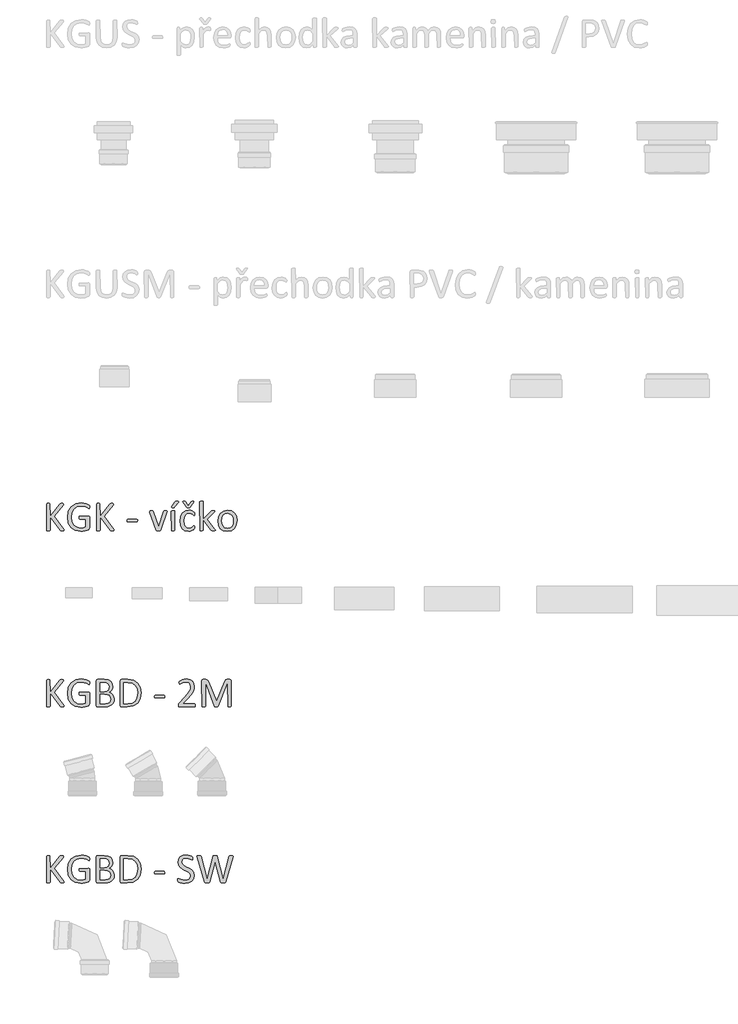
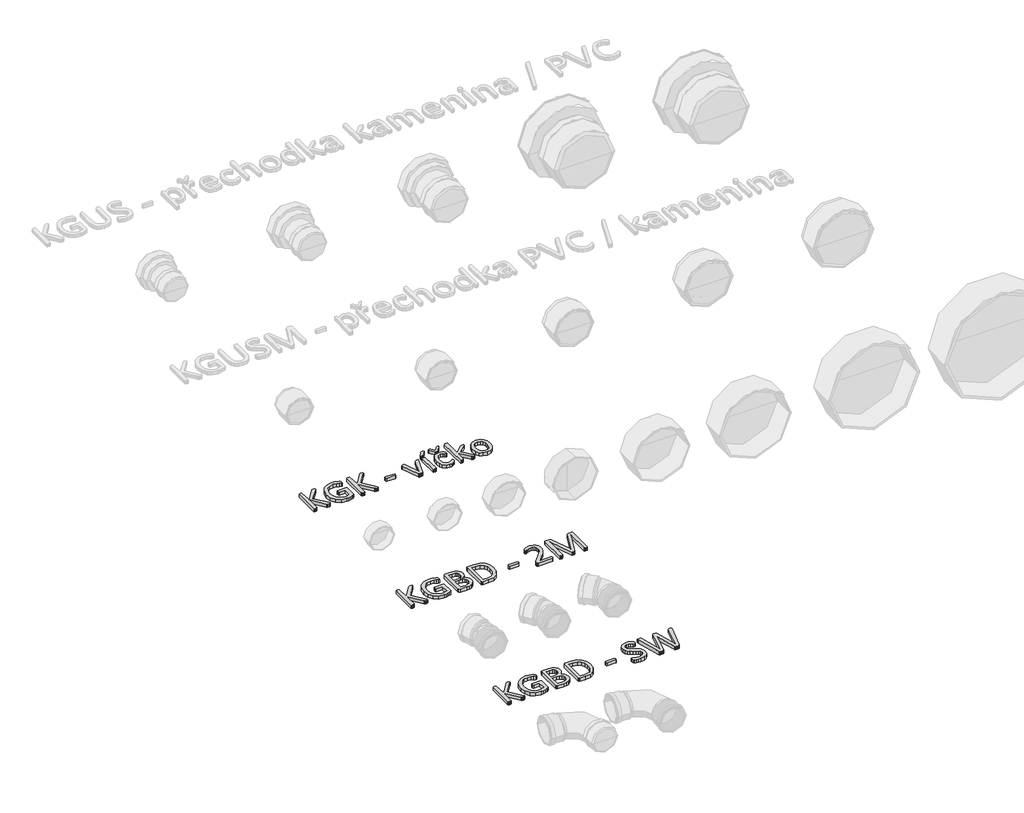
# One storey, part 2 of 11: 3 proxies.
"""IFC4 building model written with IfcOpenShell, lengths in millimetres."""

from ifc_helpers import new_model, si_unit, origin, origin_with_axes, place, context, project, spatial, polyline, outline, extrude, element, save

model = new_model("IFC4")

# Units and contexts
model_context = context("Model", 3, world=origin())
ifc_project = project(units=[si_unit("LENGTHUNIT", "METRE", prefix="MILLI")], contexts=[model_context])

# Site, building, storey
site = spatial("IfcSite", under=ifc_project)
building = spatial("IfcBuilding", under=site)
storey = spatial("IfcBuildingStorey", under=building, Name="Podlaží 1", Elevation=0.0)

# Proxies
placement = place(None, origin())
element("IfcBuildingElementProxy", 1, Name="120mm Arial", ObjectType="120mm Arial", at=placement, inside=storey, context=model_context, shape_type="SweptSolid", body=[
    extrude(outline(polyline([(-20477.3940185, 2317.4794852), (-20478.8234835, 2314.4577047), (-20481.3386182, 2313.8605864), (-20485.4098794, 2313.625358), (-20490.6934717, 2313.8967754), (-20493.7514412, 2314.910067), (-20495.4342292, 2316.592855), (-20539.5486061, 2376.232308), (-20539.5486061, 2316.592855), (-20541.2494886, 2314.4215157), (-20543.7465288, 2313.8605864), (-20547.6549395, 2313.625358), (-20551.5271613, 2313.8605864), (-20554.0603905, 2314.4215157), (-20555.3812885, 2315.3443349), (-20555.3812885, 2431.0948144), (-20551.5271613, 2433.8270831), (-20547.6549395, 2434.0623115), (-20543.7465288, 2433.8270831), (-20541.2494886, 2433.2661537), (-20539.5486061, 2378.0779464), (-20497.0989227, 2431.0948144), (-20495.7780246, 2432.4880905), (-20493.9866697, 2433.3747207), (-20491.399157, 2433.8813665), (-20487.4364628, 2434.0623115), (-20483.564241, 2433.8270831), (-20481.1938622, 2433.2299647), (-20480.2529486, 2428.7063412), (-20482.5509493, 2425.3769543), (-20522.3226476, 2378.0779464), (-20479.4748853, 2321.4783685), (-20477.3940185, 2317.4794852)])), origin_with_axes(), (0.0, 0.0, 1.0), 15.0),
    extrude(outline(polyline([(-20365.8414616, 2418.2839125), (-20366.0224065, 2415.0088091), (-20366.5833359, 2412.6384303), (-20367.5242496, 2411.2994378), (-20372.4278575, 2412.7108083), (-20379.4123323, 2416.691597), (-20389.8709499, 2420.6723858), (-20404.3103563, 2422.4818352), (-20422.1696221, 2418.8086529), (-20435.5595478, 2408.6395471), (-20443.9734876, 2393.2049435), (-20446.9047957, 2373.8076457), (-20443.7020702, 2353.0713554), (-20434.8176736, 2337.8176967), (-20421.2648974, 2328.4085597), (-20404.0208444, 2325.2058343), (-20392.693691, 2326.5267323), (-20382.0541284, 2330.4532376), (-20382.0541284, 2364.5794537), (-20409.0873028, 2364.5794537), (-20411.403398, 2366.2622416), (-20412.1633668, 2371.4915505), (-20411.9824219, 2374.6761815), (-20411.3853036, 2376.8475208), (-20371.4145658, 2378.4760252), (-20369.406077, 2378.1141354), (-20367.578533, 2377.0103712), (-20366.293824, 2374.9656934), (-20365.8414616, 2371.9981963), (-20365.8414616, 2326.4000709), (-20366.6738083, 2322.2202427), (-20370.2022347, 2319.1260842), (-20377.1505205, 2316.2128706), (-20385.9444447, 2313.5348855), (-20395.1183533, 2311.870192), (-20404.2741673, 2311.3092627), (-20429.1179079, 2315.6881303), (-20447.610481, 2328.1552368), (-20459.1366738, 2347.5163456), (-20463.1174625, 2372.7219761), (-20458.8290674, 2398.9589927), (-20446.7238508, 2418.9895978), (-20427.9598603, 2431.8185942), (-20403.7313325, 2436.3784067), (-20390.8842416, 2435.2022646), (-20380.20849, 2432.4519015), (-20372.3554795, 2429.0139476), (-20367.9766119, 2425.9740726), (-20366.3119185, 2423.1151425), (-20365.8414616, 2418.2839125)])), origin_with_axes(), (0.0, 0.0, 1.0), 15.0),
    extrude(outline(polyline([(-20257.3649688, 2317.4794852), (-20258.7944338, 2314.4577047), (-20261.3095685, 2313.8605864), (-20265.3808297, 2313.625358), (-20270.664422, 2313.8967754), (-20273.7223915, 2314.910067), (-20275.4051795, 2316.592855), (-20319.5195564, 2376.232308), (-20319.5195564, 2316.592855), (-20321.2204389, 2314.4215157), (-20323.7174791, 2313.8605864), (-20327.6258898, 2313.625358), (-20331.4981116, 2313.8605864), (-20334.0313408, 2314.4215157), (-20335.3522388, 2315.3443349), (-20335.3522388, 2431.0948144), (-20331.4981116, 2433.8270831), (-20327.6258898, 2434.0623115), (-20323.7174791, 2433.8270831), (-20321.2204389, 2433.2661537), (-20319.5195564, 2378.0779464), (-20277.069873, 2431.0948144), (-20275.7489749, 2432.4880905), (-20273.95762, 2433.3747207), (-20271.3701073, 2433.8813665), (-20267.4074131, 2434.0623115), (-20263.5351913, 2433.8270831), (-20261.1648125, 2433.2299647), (-20260.2238988, 2428.7063412), (-20262.5218996, 2425.3769543), (-20302.2935979, 2378.0779464), (-20259.4458356, 2321.4783685), (-20257.3649688, 2317.4794852)])), origin_with_axes(), (0.0, 0.0, 1.0), 15.0),
    extrude(outline(polyline([(-20155.0767929, 2358.8254045), (-20155.9272342, 2354.265592), (-20158.4061799, 2352.9989774), (-20197.9969332, 2352.9989774), (-20200.5482569, 2354.301781), (-20201.3986981, 2358.8254045), (-20200.5482569, 2363.3128391), (-20197.9969332, 2364.5794537), (-20158.4061799, 2364.5794537), (-20155.3120214, 2361.5395787), (-20155.0767929, 2358.8254045)])), origin_with_axes(), (0.0, 0.0, 1.0), 15.0),
    extrude(outline(polyline([(-20024.0274186, 2400.0446623), (-20052.5171997, 2316.9185559), (-20053.4943024, 2315.2719569), (-20055.3037518, 2314.2767598), (-20058.3617213, 2313.7701139), (-20063.0120064, 2313.625358), (-20067.6261024, 2313.8063029), (-20070.6478829, 2314.3491377), (-20072.4573323, 2315.3624294), (-20073.470624, 2316.9185559), (-20101.842791, 2395.1591489), (-20102.4399093, 2397.0590708), (-20098.8391049, 2401.5465054), (-20095.2563951, 2401.6369778), (-20090.9499054, 2401.4922219), (-20088.4528652, 2400.985576), (-20086.3539039, 2398.7056698), (-20062.7948724, 2330.8151275), (-20038.8739511, 2398.7056698), (-20036.9016512, 2400.985576), (-20034.476989, 2401.4922219), (-20030.4419168, 2401.6369778), (-20026.9134904, 2401.5465054), (-20024.0274186, 2400.0446623)])), origin_with_axes(), (0.0, 0.0, 1.0), 15.0),
    extrude(outline(polyline([(-19990.6340295, 2316.4480991), (-19994.7595742, 2313.8063029), (-19998.7765519, 2313.625358), (-20002.7211516, 2313.8063029), (-20005.2181918, 2314.3491377), (-20006.8466963, 2398.8142367), (-20002.7211516, 2401.4922219), (-19998.7765519, 2401.6369778), (-19994.7595742, 2401.4922219), (-19992.3168174, 2400.9493871), (-19990.6340295, 2316.4480991)])), origin_with_axes(), (0.0, 0.0, 1.0), 15.0),
    extrude(outline(polyline([(-19990.6702185, 2440.0334946), (-19989.3312259, 2441.6258101), (-19987.467493, 2442.6029128), (-19984.7352244, 2443.1457476), (-19980.8268136, 2443.3266925), (-19976.484135, 2443.0190861), (-19974.1680397, 2442.1324559), (-19974.4213627, 2439.2011478), (-19991.7196991, 2418.3924795), (-19993.1129752, 2416.9630144), (-19994.5424402, 2416.1125732), (-19996.6414016, 2415.6602109), (-19999.8622215, 2415.5335494), (-20003.1916085, 2415.8049668), (-20004.9286799, 2416.5287466), (-20004.530601, 2419.3695822), (-19990.6702185, 2440.0334946)])), origin_with_axes(), (0.0, 0.0, 1.0), 15.0),
    extrude(outline(polyline([(-19919.9931241, 2440.6487074), (-19918.8350764, 2441.9334165), (-19915.5418785, 2443.2000311), (-19912.6467594, 2443.3266925), (-19908.8650101, 2443.0190861), (-19907.0555607, 2442.1324559), (-19908.4126478, 2438.3326121), (-19923.3587, 2417.8496447), (-19924.5348421, 2416.691597), (-19926.1271576, 2416.0221007), (-19928.4432529, 2415.6602109), (-19931.7907343, 2415.5335494), (-19934.9391763, 2415.6602109), (-19937.1647991, 2416.0582897), (-19938.7028311, 2416.7820695), (-19954.734553, 2438.3326121), (-19956.127829, 2440.5582349), (-19954.2279071, 2443.0190861), (-19950.4642523, 2443.3266925), (-19947.3519993, 2443.2000311), (-19945.4701719, 2442.7476687), (-19943.1540767, 2440.6487074), (-19931.5736004, 2424.4722295), (-19919.9931241, 2440.6487074)])), origin_with_axes(), (0.0, 0.0, 1.0), 15.0),
    extrude(outline(polyline([(-19902.6224096, 2330.2722926), (-19902.7128821, 2327.7390635), (-19903.038583, 2325.929614), (-19905.0289773, 2322.2926207), (-19908.9192936, 2318.7641943), (-19915.0895161, 2315.018634), (-19922.5263532, 2312.3406489), (-19930.8498206, 2311.3092627), (-19946.5558416, 2314.3129487), (-19958.0096564, 2323.0887784), (-19965.0484147, 2337.2386729), (-19967.4730769, 2356.5816872), (-19964.5055798, 2378.0236629), (-19956.3811519, 2392.6982977), (-19944.2397463, 2401.1846155), (-19929.1127491, 2403.9530731), (-19921.4768726, 2403.1388209), (-19914.6733428, 2401.0036705), (-19909.1364275, 2397.9637955), (-19905.6260956, 2395.014393), (-19904.1242526, 2393.0782821), (-19903.4366618, 2391.5402501), (-19903.074772, 2389.6403282), (-19902.9842995, 2386.9804375), (-19903.7985517, 2382.1673021), (-19905.7708516, 2380.7921205), (-19908.9011991, 2382.23968), (-19913.3705392, 2385.424311), (-19919.9388406, 2388.608942), (-19929.0041822, 2390.0565015), (-19938.5264098, 2387.9575402), (-19945.5244554, 2381.6606562), (-19949.8264214, 2371.364889), (-19951.2604101, 2357.269278), (-19949.7766615, 2343.2641395), (-19945.3977939, 2333.2036007), (-19938.2866577, 2327.1781341), (-19928.6422923, 2325.2058343), (-19919.6131397, 2327.0333782), (-19912.8819878, 2331.0503559), (-19908.0869469, 2335.0130501), (-19905.0470718, 2336.7863106), (-19902.7490711, 2333.2216952), (-19902.6224096, 2330.2722926)])), origin_with_axes(), (0.0, 0.0, 1.0), 15.0),
    extrude(outline(polyline([(-19812.2946945, 2316.556666), (-19816.3659557, 2313.8063029), (-19820.3648389, 2313.625358), (-19824.4903836, 2313.7701139), (-19827.2407467, 2314.2224763), (-19829.0501961, 2315.127201), (-19830.3168107, 2316.556666), (-19865.5648854, 2362.1186025), (-19865.5648854, 2316.4480991), (-19869.6904301, 2313.8063029), (-19873.7074078, 2313.625358), (-19877.6520076, 2313.8063029), (-19880.1490478, 2314.3672322), (-19881.7775523, 2440.3591955), (-19877.6520076, 2443.1457476), (-19873.7074078, 2443.3266925), (-19869.6904301, 2443.1457476), (-19867.2476734, 2442.5848183), (-19865.9629643, 2441.6439046), (-19865.5648854, 2364.2175638), (-19833.3566857, 2398.4523469), (-19831.7462757, 2399.9541899), (-19829.7196924, 2400.9493871), (-19826.9331403, 2401.4922219), (-19823.042824, 2401.6369778), (-19819.0620353, 2401.4922219), (-19816.4745226, 2401.0398595), (-19815.0450576, 2400.2256073), (-19815.244097, 2396.6971809), (-19817.3611528, 2394.1458572), (-19849.3522186, 2364.3261308), (-19814.5746007, 2320.8631556), (-19812.8194348, 2318.348021), (-19812.2946945, 2316.556666)])), origin_with_axes(), (0.0, 0.0, 1.0), 15.0),
    extrude(outline(polyline([(-19717.3347888, 2358.5358926), (-19720.0127739, 2339.5547682), (-19728.0286349, 2324.608716), (-19741.3823716, 2314.8195946), (-19759.9654172, 2311.3092627), (-19777.8789665, 2314.4034212), (-19790.6174904, 2323.3963848), (-19798.217178, 2337.7272243), (-19800.7142182, 2356.8350102), (-19798.072422, 2375.8161346), (-19790.1108445, 2390.7440923), (-19776.8113913, 2400.4789302), (-19758.1921567, 2403.9530731), (-19740.260513, 2400.8589146), (-19727.521989, 2391.865951), (-19719.8861125, 2377.5351115), (-19717.3347888, 2358.5358926)]), holes=[polyline([(-19733.5474556, 2357.450223), (-19734.7959757, 2370.0258964), (-19738.9034259, 2380.4121361), (-19746.6297749, 2387.4689889), (-19758.8073696, 2390.0565015), (-19770.3697514, 2387.6861228), (-19778.3313288, 2380.9911599), (-19782.9816138, 2370.7496762), (-19784.5015513, 2357.8121128), (-19783.2530312, 2345.1640614), (-19779.1093921, 2334.8140107), (-19771.3287596, 2327.7933469), (-19759.1692594, 2325.2058343), (-19747.6430666, 2327.576213), (-19739.6272057, 2334.2168924), (-19735.0131097, 2344.4221871), (-19733.5474556, 2357.450223)])]), origin_with_axes(), (0.0, 0.0, 1.0), 15.0),
])
element("IfcBuildingElementProxy", 2, Name="120mm Arial", ObjectType="120mm Arial", at=placement, inside=storey, context=model_context, shape_type="SweptSolid", body=[
    extrude(outline(polyline([(-20477.3940185, 1543.1939722), (-20478.8234835, 1540.1721917), (-20481.3386182, 1539.5750734), (-20485.4098794, 1539.339845), (-20490.6934717, 1539.6112624), (-20493.7514412, 1540.6245541), (-20495.4342292, 1542.307342), (-20539.5486061, 1601.946795), (-20539.5486061, 1542.307342), (-20541.2494886, 1540.1360027), (-20543.7465288, 1539.5750734), (-20547.6549395, 1539.339845), (-20551.5271613, 1539.5750734), (-20554.0603905, 1540.1360027), (-20555.3812885, 1541.0588219), (-20555.3812885, 1656.8093014), (-20551.5271613, 1659.5415701), (-20547.6549395, 1659.7767985), (-20543.7465288, 1659.5415701), (-20541.2494886, 1658.9806407), (-20539.5486061, 1603.7924334), (-20497.0989227, 1656.8093014), (-20495.7780246, 1658.2025775), (-20493.9866697, 1659.0892077), (-20491.399157, 1659.5958535), (-20487.4364628, 1659.7767985), (-20483.564241, 1659.5415701), (-20481.1938622, 1658.9444518), (-20480.2529486, 1654.4208282), (-20482.5509493, 1651.0914413), (-20522.3226476, 1603.7924334), (-20479.4748853, 1547.1928555), (-20477.3940185, 1543.1939722)])), origin_with_axes(), (0.0, 0.0, 1.0), 15.0),
    extrude(outline(polyline([(-20365.8414616, 1643.9983995), (-20366.0224065, 1640.7232961), (-20366.5833359, 1638.3529173), (-20367.5242496, 1637.0139248), (-20372.4278575, 1638.4252953), (-20379.4123323, 1642.406084), (-20389.8709499, 1646.3868728), (-20404.3103563, 1648.1963222), (-20422.1696221, 1644.5231399), (-20435.5595478, 1634.3540341), (-20443.9734876, 1618.9194305), (-20446.9047957, 1599.5221327), (-20443.7020702, 1578.7858424), (-20434.8176736, 1563.5321837), (-20421.2648974, 1554.1230467), (-20404.0208444, 1550.9203213), (-20392.693691, 1552.2412193), (-20382.0541284, 1556.1677246), (-20382.0541284, 1590.2939407), (-20409.0873028, 1590.2939407), (-20411.403398, 1591.9767286), (-20412.1633668, 1597.2060375), (-20411.9824219, 1600.3906685), (-20411.3853036, 1602.5620078), (-20371.4145658, 1604.1905122), (-20369.406077, 1603.8286224), (-20367.578533, 1602.7248582), (-20366.293824, 1600.6801804), (-20365.8414616, 1597.7126833), (-20365.8414616, 1552.1145579), (-20366.6738083, 1547.9347297), (-20370.2022347, 1544.8405712), (-20377.1505205, 1541.9273576), (-20385.9444447, 1539.2493725), (-20395.1183533, 1537.584679), (-20404.2741673, 1537.0237497), (-20429.1179079, 1541.4026173), (-20447.610481, 1553.8697238), (-20459.1366738, 1573.2308326), (-20463.1174625, 1598.4364631), (-20458.8290674, 1624.6734797), (-20446.7238508, 1644.7040848), (-20427.9598603, 1657.5330812), (-20403.7313325, 1662.0928937), (-20390.8842416, 1660.9167516), (-20380.20849, 1658.1663885), (-20372.3554795, 1654.7284346), (-20367.9766119, 1651.6885596), (-20366.3119185, 1648.8296295), (-20365.8414616, 1643.9983995)])), origin_with_axes(), (0.0, 0.0, 1.0), 15.0),
    extrude(outline(polyline([(-20256.9849844, 1573.3936831), (-20258.4144494, 1563.0798214), (-20262.4314271, 1554.5754091), (-20268.6559332, 1547.9709187), (-20276.8708335, 1543.1939722), (-20286.6599549, 1540.2988532), (-20298.6023211, 1539.339845), (-20329.8334181, 1539.339845), (-20333.8323013, 1540.7874045), (-20335.7322232, 1545.8538629), (-20335.7322232, 1653.2627806), (-20333.8142068, 1658.329239), (-20329.7610401, 1659.7767985), (-20302.4021649, 1659.7767985), (-20284.687655, 1657.6959317), (-20273.1976512, 1651.6523706), (-20266.2674599, 1641.9175327), (-20263.9332702, 1628.8714024), (-20264.9646563, 1620.5660295), (-20267.9864369, 1613.2377594), (-20273.0167063, 1607.2303873), (-20279.964992, 1602.8877087), (-20270.9901229, 1599.5402272), (-20263.7161362, 1593.3338157), (-20258.7944338, 1584.521797), (-20256.9849844, 1573.3936831)]), holes=[polyline([(-20280.145937, 1626.7000631), (-20281.3582681, 1634.6978295), (-20285.1581119, 1640.7594851), (-20291.9254527, 1644.5593288), (-20302.9811887, 1645.8802269), (-20319.5195564, 1645.8802269), (-20319.5195564, 1606.5066075), (-20301.3164952, 1606.5066075), (-20291.2921454, 1608.1532065), (-20284.9771669, 1612.5682631), (-20281.3039846, 1619.046092), (-20280.145937, 1626.7000631)]), polyline([(-20273.1976512, 1573.2489271), (-20274.8985337, 1582.5856862), (-20279.8745196, 1589.353027), (-20288.0894199, 1593.5147607), (-20300.5203375, 1594.9261312), (-20319.5195564, 1594.9261312), (-20319.5195564, 1553.2364165), (-20296.4671708, 1553.2364165), (-20286.9494668, 1554.5211256), (-20279.8021416, 1558.3209694), (-20274.9528171, 1564.5816644), (-20273.1976512, 1573.2489271)])]), origin_with_axes(), (0.0, 0.0, 1.0), 15.0),
    extrude(outline(polyline([(-20138.8641261, 1601.3315822), (-20142.8630093, 1574.0088959), (-20154.5520526, 1554.6477871), (-20173.4065156, 1543.1577832), (-20200.0235166, 1539.339845), (-20225.5367534, 1539.339845), (-20229.6080146, 1540.7874045), (-20231.5079365, 1545.8538629), (-20231.5079365, 1653.2627806), (-20229.6080146, 1658.329239), (-20225.5367534, 1659.7767985), (-20198.2502561, 1659.7767985), (-20171.8142001, 1655.7236318), (-20153.7016114, 1644.088872), (-20142.6277809, 1625.7048659), (-20138.8641261, 1601.3315822)]), holes=[polyline([(-20155.0767929, 1600.6078024), (-20157.5195497, 1618.5937296), (-20165.1554262, 1632.996947), (-20178.328218, 1642.478462), (-20198.865469, 1645.8802269), (-20215.2952697, 1645.8802269), (-20215.2952697, 1553.2364165), (-20198.684524, 1553.2364165), (-20179.0881868, 1556.0953466), (-20165.770639, 1564.8349873), (-20157.7547781, 1579.6000946), (-20155.0767929, 1600.6078024)])]), origin_with_axes(), (0.0, 0.0, 1.0), 15.0),
    extrude(outline(polyline([(-20034.6398394, 1584.5398915), (-20035.4902807, 1579.980079), (-20037.9692264, 1578.7134644), (-20077.5599797, 1578.7134644), (-20080.1113034, 1580.016268), (-20080.9617446, 1584.5398915), (-20080.1113034, 1589.0273261), (-20077.5599797, 1590.2939407), (-20037.9692264, 1590.2939407), (-20034.8750678, 1587.2540657), (-20034.6398394, 1584.5398915)])), origin_with_axes(), (0.0, 0.0, 1.0), 15.0),
    extrude(outline(polyline([(-19900.3063143, 1546.3966977), (-19900.5415428, 1543.3387282), (-19901.1748501, 1541.1131054), (-19902.2605197, 1539.7741128), (-19969.2101483, 1539.339845), (-19971.4357711, 1539.6655459), (-19973.0823701, 1540.7512155), (-19974.0956618, 1542.9406493), (-19974.4213627, 1546.4328867), (-19974.2766067, 1549.7622736), (-19973.6613939, 1552.2774083), (-19972.4671573, 1554.4668421), (-19970.5853299, 1556.7829374), (-19946.6282195, 1581.9704733), (-19933.3287663, 1597.224132), (-19925.5843228, 1609.5102935), (-19922.0016129, 1619.5708323), (-19921.1511717, 1628.0752446), (-19922.4901643, 1635.8196881), (-19926.362386, 1642.2251391), (-19932.7135535, 1646.5859122), (-19941.4893832, 1648.1963222), (-19951.9118119, 1646.7306682), (-19960.0362398, 1643.5641317), (-19965.8626669, 1640.3975952), (-19969.3549043, 1638.9319411), (-19971.906228, 1642.587029), (-19972.1052674, 1645.807849), (-19972.0147949, 1648.1058497), (-19971.689094, 1649.8067322), (-19969.6082272, 1652.6837568), (-19965.7721944, 1655.2350804), (-19958.9505701, 1658.4016169), (-19949.8852285, 1661.0253186), (-19939.4989888, 1662.0928937), (-19924.2996137, 1659.613948), (-19913.4791061, 1652.8285127), (-19907.0555607, 1642.8222574), (-19904.9385049, 1630.6808518), (-19905.969891, 1619.2270369), (-19910.3306641, 1606.9046864), (-19919.9569351, 1592.1576736), (-19936.6400587, 1573.4660611), (-19955.8926006, 1553.2364165), (-19903.9252132, 1553.2364165), (-19901.283417, 1551.5174396), (-19900.5415428, 1549.3822893), (-19900.3063143, 1546.3966977)])), origin_with_axes(), (0.0, 0.0, 1.0), 15.0),
    extrude(outline(polyline([(-19742.8118367, 1542.307342), (-19744.5489081, 1540.1360027), (-19747.0278538, 1539.5750734), (-19750.9543591, 1539.339845), (-19754.8084863, 1539.5750734), (-19757.3417155, 1540.1360027), (-19759.0245035, 1646.7125737), (-19800.4247063, 1541.8368852), (-19802.7046125, 1539.9550578), (-19805.0207078, 1539.4846009), (-19808.2053388, 1539.339845), (-19811.5528202, 1539.5207899), (-19813.88701, 1540.0274357), (-19815.3345695, 1540.8235935), (-19856.2281264, 1646.7125737), (-19856.2281264, 1542.307342), (-19858.0375758, 1540.1360027), (-19860.570805, 1539.5750734), (-19864.5515938, 1539.339845), (-19868.4238155, 1539.5750734), (-19870.9027612, 1540.1360027), (-19872.5131712, 1652.5390008), (-19870.4323044, 1658.112105), (-19865.7820194, 1659.7767985), (-19855.9024255, 1659.7767985), (-19850.5826442, 1659.2158692), (-19846.6018555, 1657.4607032), (-19843.7610199, 1654.4027337), (-19841.7525311, 1650.0419606), (-19807.6625039, 1563.2245773), (-19772.5591852, 1649.7886377), (-19770.2792789, 1654.5113007), (-19767.5651048, 1657.6054592), (-19764.2900013, 1659.2701526), (-19760.1101731, 1659.7767985), (-19749.7601224, 1659.7767985), (-19747.0278538, 1659.3606251), (-19744.8565145, 1658.0578215), (-19743.3908605, 1655.8321987), (-19742.8118367, 1652.5390008), (-19742.8118367, 1542.307342)])), origin_with_axes(), (0.0, 0.0, 1.0), 15.0),
])
element("IfcBuildingElementProxy", 3, Name="120mm Arial", ObjectType="120mm Arial", at=placement, inside=storey, context=model_context, shape_type="SweptSolid", body=[
    extrude(outline(polyline([(-20477.3940185, 768.9084592), (-20478.8234835, 765.8866787), (-20481.3386182, 765.2895604), (-20485.4098794, 765.054332), (-20490.6934717, 765.3257494), (-20493.7514412, 766.3390411), (-20495.4342292, 768.021829), (-20539.5486061, 827.661282), (-20539.5486061, 768.021829), (-20541.2494886, 765.8504897), (-20543.7465288, 765.2895604), (-20547.6549395, 765.054332), (-20551.5271613, 765.2895604), (-20554.0603905, 765.8504897), (-20555.3812885, 766.7733089), (-20555.3812885, 882.5237884), (-20551.5271613, 885.2560571), (-20547.6549395, 885.4912855), (-20543.7465288, 885.2560571), (-20541.2494886, 884.6951277), (-20539.5486061, 829.5069204), (-20497.0989227, 882.5237884), (-20495.7780246, 883.9170645), (-20493.9866697, 884.8036947), (-20491.399157, 885.3103406), (-20487.4364628, 885.4912855), (-20483.564241, 885.2560571), (-20481.1938622, 884.6589388), (-20480.2529486, 880.1353152), (-20482.5509493, 876.8059283), (-20522.3226476, 829.5069204), (-20479.4748853, 772.9073425), (-20477.3940185, 768.9084592)])), origin_with_axes(), (0.0, 0.0, 1.0), 15.0),
    extrude(outline(polyline([(-20365.8414616, 869.7128865), (-20366.0224065, 866.4377831), (-20366.5833359, 864.0674043), (-20367.5242496, 862.7284118), (-20372.4278575, 864.1397823), (-20379.4123323, 868.120571), (-20389.8709499, 872.1013598), (-20404.3103563, 873.9108092), (-20422.1696221, 870.2376269), (-20435.5595478, 860.0685211), (-20443.9734876, 844.6339175), (-20446.9047957, 825.2366197), (-20443.7020702, 804.5003294), (-20434.8176736, 789.2466707), (-20421.2648974, 779.8375338), (-20404.0208444, 776.6348083), (-20392.693691, 777.9557064), (-20382.0541284, 781.8822116), (-20382.0541284, 816.0084277), (-20409.0873028, 816.0084277), (-20411.403398, 817.6912157), (-20412.1633668, 822.9205245), (-20411.9824219, 826.1051555), (-20411.3853036, 828.2764948), (-20371.4145658, 829.9049993), (-20369.406077, 829.5431094), (-20367.578533, 828.4393452), (-20366.293824, 826.3946674), (-20365.8414616, 823.4271703), (-20365.8414616, 777.8290449), (-20366.6738083, 773.6492167), (-20370.2022347, 770.5550582), (-20377.1505205, 767.6418446), (-20385.9444447, 764.9638595), (-20395.1183533, 763.299166), (-20404.2741673, 762.7382367), (-20429.1179079, 767.1171043), (-20447.610481, 779.5842108), (-20459.1366738, 798.9453196), (-20463.1174625, 824.1509501), (-20458.8290674, 850.3879667), (-20446.7238508, 870.4185718), (-20427.9598603, 883.2475682), (-20403.7313325, 887.8073808), (-20390.8842416, 886.6312386), (-20380.20849, 883.8808755), (-20372.3554795, 880.4429216), (-20367.9766119, 877.4030466), (-20366.3119185, 874.5441165), (-20365.8414616, 869.7128865)])), origin_with_axes(), (0.0, 0.0, 1.0), 15.0),
    extrude(outline(polyline([(-20256.9849844, 799.1081701), (-20258.4144494, 788.7943084), (-20262.4314271, 780.2898961), (-20268.6559332, 773.6854057), (-20276.8708335, 768.9084592), (-20286.6599549, 766.0133402), (-20298.6023211, 765.054332), (-20329.8334181, 765.054332), (-20333.8323013, 766.5018915), (-20335.7322232, 771.5683499), (-20335.7322232, 878.9772676), (-20333.8142068, 884.043726), (-20329.7610401, 885.4912855), (-20302.4021649, 885.4912855), (-20284.687655, 883.4104187), (-20273.1976512, 877.3668576), (-20266.2674599, 867.6320197), (-20263.9332702, 854.5858894), (-20264.9646563, 846.2805165), (-20267.9864369, 838.9522464), (-20273.0167063, 832.9448743), (-20279.964992, 828.6021957), (-20270.9901229, 825.2547142), (-20263.7161362, 819.0483027), (-20258.7944338, 810.236284), (-20256.9849844, 799.1081701)]), holes=[polyline([(-20280.145937, 852.4145501), (-20281.3582681, 860.4123165), (-20285.1581119, 866.4739721), (-20291.9254527, 870.2738159), (-20302.9811887, 871.5947139), (-20319.5195564, 871.5947139), (-20319.5195564, 832.2210945), (-20301.3164952, 832.2210945), (-20291.2921454, 833.8676935), (-20284.9771669, 838.2827501), (-20281.3039846, 844.760579), (-20280.145937, 852.4145501)]), polyline([(-20273.1976512, 798.9634141), (-20274.8985337, 808.3001732), (-20279.8745196, 815.067514), (-20288.0894199, 819.2292477), (-20300.5203375, 820.6406182), (-20319.5195564, 820.6406182), (-20319.5195564, 778.9509035), (-20296.4671708, 778.9509035), (-20286.9494668, 780.2356126), (-20279.8021416, 784.0354564), (-20274.9528171, 790.2961514), (-20273.1976512, 798.9634141)])]), origin_with_axes(), (0.0, 0.0, 1.0), 15.0),
    extrude(outline(polyline([(-20138.8641261, 827.0460692), (-20142.8630093, 799.7233829), (-20154.5520526, 780.3622741), (-20173.4065156, 768.8722703), (-20200.0235166, 765.054332), (-20225.5367534, 765.054332), (-20229.6080146, 766.5018915), (-20231.5079365, 771.5683499), (-20231.5079365, 878.9772676), (-20229.6080146, 884.043726), (-20225.5367534, 885.4912855), (-20198.2502561, 885.4912855), (-20171.8142001, 881.4381188), (-20153.7016114, 869.803359), (-20142.6277809, 851.4193529), (-20138.8641261, 827.0460692)]), holes=[polyline([(-20155.0767929, 826.3222894), (-20157.5195497, 844.3082167), (-20165.1554262, 858.7114341), (-20178.328218, 868.192949), (-20198.865469, 871.5947139), (-20215.2952697, 871.5947139), (-20215.2952697, 778.9509035), (-20198.684524, 778.9509035), (-20179.0881868, 781.8098336), (-20165.770639, 790.5494743), (-20157.7547781, 805.3145816), (-20155.0767929, 826.3222894)])]), origin_with_axes(), (0.0, 0.0, 1.0), 15.0),
    extrude(outline(polyline([(-20034.6398394, 810.2543785), (-20035.4902807, 805.694566), (-20037.9692264, 804.4279514), (-20077.5599797, 804.4279514), (-20080.1113034, 805.730755), (-20080.9617446, 810.2543785), (-20080.1113034, 814.7418131), (-20077.5599797, 816.0084277), (-20037.9692264, 816.0084277), (-20034.8750678, 812.9685527), (-20034.6398394, 810.2543785)])), origin_with_axes(), (0.0, 0.0, 1.0), 15.0),
    extrude(outline(polyline([(-19904.9385049, 798.6015243), (-19908.0507579, 783.4021491), (-19916.7180206, 772.0930902), (-19929.7641509, 765.090521), (-19945.9044398, 762.7382367), (-19957.1230262, 763.6429614), (-19966.3512182, 765.8685842), (-19973.1547481, 768.6008528), (-19976.9726863, 771.0074206), (-19978.5469073, 773.7939727), (-19979.0535532, 778.5528247), (-19978.8726082, 782.081251), (-19978.3116789, 784.3430628), (-19972.3404958, 784.4516298), (-19966.1702733, 781.3031878), (-19957.1049317, 778.1185568), (-19944.8549591, 776.6348083), (-19935.2105937, 778.0461788), (-19927.7013786, 782.0269676), (-19922.8520541, 788.3238515), (-19921.1511717, 796.8282638), (-19923.5396449, 805.658377), (-19929.8184344, 812.0819224), (-19938.7028311, 817.1483808), (-19948.9443148, 821.8529493), (-19959.131515, 827.1546361), (-19967.9797227, 833.9943549), (-19974.3127957, 843.258736), (-19976.7374579, 855.9610709), (-19973.9690003, 869.5500361), (-19966.2788403, 879.5381969), (-19954.553608, 885.6903249), (-19939.8608787, 887.8073808), (-19931.7364508, 887.0293175), (-19924.0462908, 884.9665452), (-19917.6046508, 882.0895206), (-19913.8952795, 879.5201024), (-19912.7372319, 878.0182594), (-19911.9772631, 874.7069669), (-19911.8867906, 871.7394699), (-19912.0315466, 868.6634059), (-19912.44772, 866.4196886), (-19917.6770288, 866.0577987), (-19923.1053771, 869.2243352), (-19930.7050646, 872.4451552), (-19940.5484695, 873.9108092), (-19949.3966772, 872.5899111), (-19955.6211832, 869.0795792), (-19959.2943655, 863.8683649), (-19960.5247911, 857.4810084), (-19958.1725069, 848.7594622), (-19951.8937174, 842.2816333), (-19942.9731317, 837.106608), (-19932.7859315, 832.3658505), (-19922.5806367, 827.1003527), (-19913.6600511, 820.3330118), (-19907.3450726, 811.1410087), (-19904.9385049, 798.6015243)])), origin_with_axes(), (0.0, 0.0, 1.0), 15.0),
    extrude(outline(polyline([(-19767.1308369, 769.1074987), (-19768.27079, 767.0266318), (-19770.2973734, 765.8323952), (-19773.4820044, 765.2352769), (-19778.1684784, 765.054332), (-19783.0539918, 765.2352769), (-19786.3471898, 765.8323952), (-19788.2833006, 767.0266318), (-19789.3146868, 769.1074987), (-19814.4298448, 859.2180799), (-19837.8079313, 769.1074987), (-19838.7307505, 767.0266318), (-19840.5763889, 765.8323952), (-19843.6886419, 765.2352769), (-19848.5560609, 765.054332), (-19853.6587082, 765.2352769), (-19856.9880952, 765.8323952), (-19858.996584, 767.0266318), (-19859.9555922, 769.1074987), (-19891.6933351, 879.3029685), (-19892.2904534, 882.6323554), (-19891.5485791, 884.4779938), (-19888.9972555, 885.3103406), (-19884.2745925, 885.4912855), (-19879.7147799, 885.3465295), (-19877.1634562, 884.8398837), (-19875.4444793, 882.1618986), (-19848.4836829, 782.2079125), (-19822.7895011, 881.9809536), (-19822.0838158, 883.6818361), (-19820.7448233, 884.7494112), (-19818.1030271, 885.3103406), (-19813.597498, 885.4912855), (-19809.4719534, 885.3103406), (-19807.0291966, 884.7494112), (-19805.6721096, 883.6818361), (-19804.9845188, 881.9809536), (-19777.4446986, 782.2079125), (-19750.8096031, 882.0895206), (-19750.2667683, 883.6818361), (-19746.6116804, 885.3103406), (-19742.3051908, 885.4912855), (-19737.8901342, 885.2560571), (-19735.5197555, 884.3875213), (-19734.8321647, 882.5418829), (-19735.3207161, 879.2305905), (-19767.1308369, 769.1074987)])), origin_with_axes(), (0.0, 0.0, 1.0), 15.0),
])

save(model, "model.ifc")
